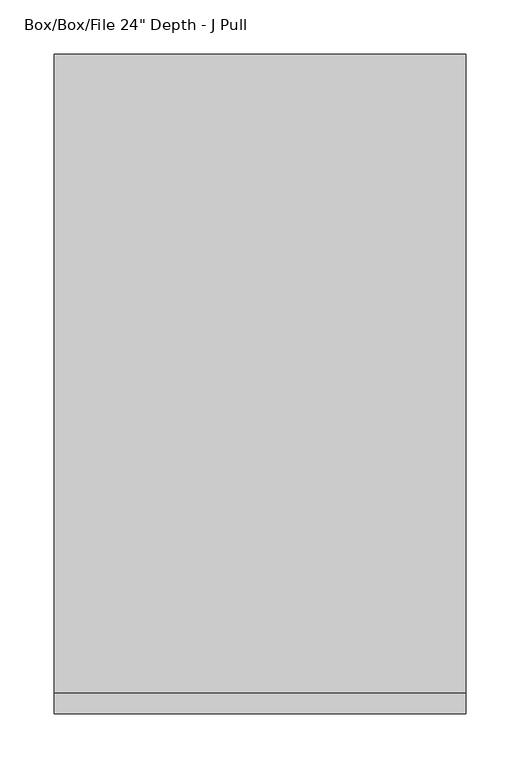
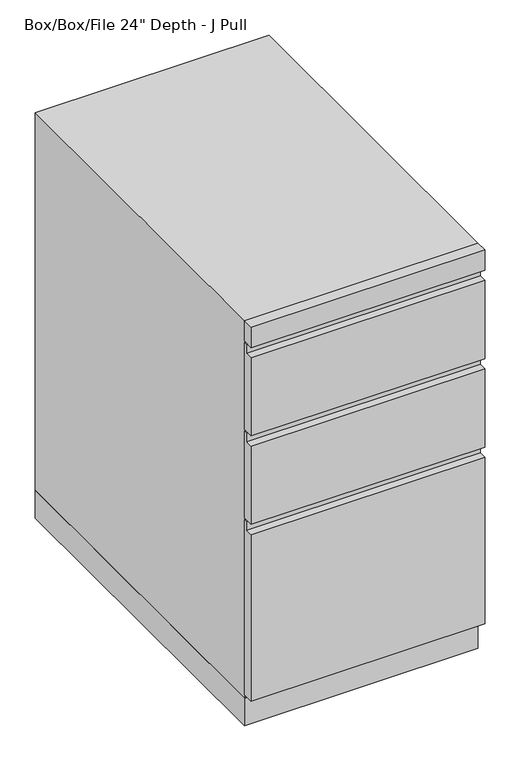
"""IFC4 building model written with IfcOpenShell, lengths in millimetres: furniture geometry."""

import ifcopenshell
import ifcopenshell.guid

model = None  # the IFC model being written
_history = None  # IfcOwnerHistory: only IFC2X3 demands one
_inside = {}  # id of a spatial element -> (the spatial element, [elements in it])
_under = {}  # id of a project, library or spatial element -> (it, [spatial elements below it])
_declared = {}  # id of a project -> (the project, [libraries it declares])
_typed = {}  # id of a type object -> (the type object, [elements of that type])
_made_of = {}  # id of a material, layer set ... -> (it, [elements and type objects made of it])


def new_model(schema):
    """Start an empty IFC model of exactly this schema.

    Asked for "IFC4X3", IfcOpenShell would pick the latest addendum, in which some entities
    have other attributes; the version numbers below select the first issue.
    IFC2X3 requires an IfcOwnerHistory on every rooted entity: one is made here for all.
    """
    global model, _history
    if schema == "IFC4X3":
        model = ifcopenshell.file(schema_version=(4, 3, 0, 0))
    else:
        model = ifcopenshell.file(schema=schema)
    _inside.clear()
    _under.clear()
    _declared.clear()
    _typed.clear()
    _made_of.clear()
    _history = None
    if model.schema == "IFC2X3":
        org = make("IfcOrganization", Name="unknown")
        user = make(
            "IfcPersonAndOrganization",
            ThePerson=make("IfcPerson", FamilyName="unknown"),
            TheOrganization=org,
        )
        app = make(
            "IfcApplication",
            ApplicationDeveloper=org,
            Version="unknown",
            ApplicationFullName="unknown",
            ApplicationIdentifier="unknown",
        )
        _history = make(
            "IfcOwnerHistory",
            OwningUser=user,
            OwningApplication=app,
            ChangeAction="ADDED",
            CreationDate=0,
        )
    return model


def make(cls, **values):
    """One entity of the class cls with the attributes given. An attribute that is None is left unset."""
    return model.create_entity(
        cls, **{name: value for name, value in values.items() if value is not None}
    )


def rooted(cls, **values):
    """An entity with a GlobalId (a new one), such as an element, a storey or a relation."""
    return make(cls, GlobalId=ifcopenshell.guid.new(), OwnerHistory=_history, **values)


def si_unit(unit_type, name, prefix=None):
    """IfcSIUnit, for example si_unit("LENGTHUNIT", "METRE", prefix="MILLI")."""
    return make("IfcSIUnit", UnitType=unit_type, Prefix=prefix, Name=name)


def assignment(units):
    """IfcUnitAssignment: the units of a project."""
    return None if units is None else make("IfcUnitAssignment", Units=units)


def point(xyz):
    """IfcCartesianPoint."""
    return None if xyz is None else make("IfcCartesianPoint", Coordinates=xyz)


def direction(xyz):
    """IfcDirection."""
    return None if xyz is None else make("IfcDirection", DirectionRatios=xyz)


def frame(location, z_axis=None, x_axis=None):
    """IfcAxis2Placement3D, a coordinate frame: its origin and axes. An axis left out is left unset."""
    return make(
        "IfcAxis2Placement3D",
        Location=point(location),
        Axis=direction(z_axis),
        RefDirection=direction(x_axis),
    )


def origin():
    """The frame at (0, 0, 0) with its axes left unset."""
    return frame((0.0, 0.0, 0.0))


def origin_with_axes():
    """The frame at (0, 0, 0) with the z axis (0, 0, 1) and the x axis (1, 0, 0) written out."""
    return frame((0.0, 0.0, 0.0), z_axis=(0.0, 0.0, 1.0), x_axis=(1.0, 0.0, 0.0))


def place(relative_to, where):
    """IfcLocalPlacement: puts the frame where relative to a parent placement (None: the world)."""
    return make(
        "IfcLocalPlacement", PlacementRelTo=relative_to, RelativePlacement=where
    )


def context(
    kind, dimensions, precision=None, world=None, true_north=None, identifier=None
):
    """IfcGeometricRepresentationContext, for example the 3D "Model" context."""
    return make(
        "IfcGeometricRepresentationContext",
        ContextIdentifier=identifier,
        ContextType=kind,
        CoordinateSpaceDimension=dimensions,
        Precision=precision,
        WorldCoordinateSystem=world,
        TrueNorth=true_north,
    )


def project(units=None, contexts=None):
    """IfcProject with its units and contexts."""
    return rooted(
        "IfcProject",
        Name="project",
        RepresentationContexts=contexts,
        UnitsInContext=assignment(units),
    )


def spatial(cls, under=None, at=None, **own):
    """A site, building, storey or space (cls), placed at a placement, below another one or the project."""
    s = rooted(cls, ObjectPlacement=at, **own)
    if under is not None:
        _under.setdefault(under.id(), (under, []))[1].append(s)
    return s


def polyline(points):
    """IfcPolyline through the points."""
    return make("IfcPolyline", Points=[point(p) for p in points])


def outline(outer, holes=None, kind="AREA"):
    """IfcArbitraryClosedProfileDef: a profile drawn as a closed curve; with holes, ...WithVoids."""
    if holes is None:
        return make("IfcArbitraryClosedProfileDef", ProfileType=kind, OuterCurve=outer)
    return make(
        "IfcArbitraryProfileDefWithVoids",
        ProfileType=kind,
        OuterCurve=outer,
        InnerCurves=holes,
    )


def extrude(swept, where, along, depth):
    """IfcExtrudedAreaSolid: the profile swept, set in the frame where, extruded along a direction by depth."""
    return make(
        "IfcExtrudedAreaSolid",
        SweptArea=swept,
        Position=where,
        ExtrudedDirection=direction(along),
        Depth=depth,
    )


def shape(context_of_items, identifier, shape_type, items):
    """IfcShapeRepresentation: the items that make up one representation, for example the "Body"."""
    return make(
        "IfcShapeRepresentation",
        ContextOfItems=context_of_items,
        RepresentationIdentifier=identifier,
        RepresentationType=shape_type,
        Items=items,
    )


def source(mapping_origin, context_of_items, identifier, shape_type, items):
    """IfcRepresentationMap: a shape defined once, which mapped items show again and again."""
    return make(
        "IfcRepresentationMap",
        MappingOrigin=mapping_origin,
        MappedRepresentation=shape(context_of_items, identifier, shape_type, items),
    )


def transform(
    local_origin,
    x_axis=None,
    y_axis=None,
    z_axis=None,
    scale=None,
    scale2=None,
    scale3=None,
    uniform=True,
):
    """IfcCartesianTransformationOperator3D, or its non-uniform kind. x_axis, y_axis, z_axis: its Axis1, 2, 3."""
    if uniform:
        return make(
            "IfcCartesianTransformationOperator3D",
            Axis1=direction(x_axis),
            Axis2=direction(y_axis),
            LocalOrigin=point(local_origin),
            Scale=scale,
            Axis3=direction(z_axis),
        )
    return make(
        "IfcCartesianTransformationOperator3DnonUniform",
        Axis1=direction(x_axis),
        Axis2=direction(y_axis),
        LocalOrigin=point(local_origin),
        Scale=scale,
        Axis3=direction(z_axis),
        Scale2=scale2,
        Scale3=scale3,
    )


def mapped(mapping_source, mapping_target):
    """IfcMappedItem: shows the shape of a source again, moved by a transform."""
    return make(
        "IfcMappedItem", MappingSource=mapping_source, MappingTarget=mapping_target
    )


def made_of(thing, what):
    """Note that an element or type object is made of a material, layer set ...; save() writes the relation."""
    if what is not None:
        _made_of.setdefault(what.id(), (what, []))[1].append(thing)
    return thing


def element(
    cls,
    number,
    at=None,
    inside=None,
    cuts=None,
    type_object=None,
    material=None,
    context=None,
    identifier="Body",
    shape_type=None,
    held_by="IfcProductDefinitionShape",
    body=None,
    shapes=None,
    **own,
):
    """One element of the class cls, such as IfcWall. Its Tag is "e" and its number.

    at: its placement. inside: the storey or other place that contains it. cuts: it is an
    opening in that element (IfcRelVoidsElement). A single representation is given by context,
    identifier, shape_type and body (its items); several are given by shapes. held_by: the class
    of the entity that holds the representations. save() writes the other relations.
    """
    e = rooted(cls, Tag="e%d" % number, ObjectPlacement=at, **own)
    if body is not None:
        shapes = [shape(context, identifier, shape_type, body)]
    if shapes is not None:
        e.Representation = make(held_by, Representations=shapes)
    if inside is not None:
        _inside.setdefault(inside.id(), (inside, []))[1].append(e)
    if cuts is not None:
        rooted(
            "IfcRelVoidsElement", RelatingBuildingElement=cuts, RelatedOpeningElement=e
        )
    if type_object is not None:
        _typed.setdefault(type_object.id(), (type_object, []))[1].append(e)
    return made_of(e, material)


def aggregate(whole, parts):
    """IfcRelAggregates: a whole, such as a stair, and the parts it consists of."""
    return rooted("IfcRelAggregates", RelatingObject=whole, RelatedObjects=parts)


def save(model, path):
    """Write the relations noted so far, then the file.

    IfcRelAggregates (storeys below a building ...), IfcRelContainedInSpatialStructure (elements
    in a storey), IfcRelDefinesByType, IfcRelAssociatesMaterial and IfcRelDeclares: one each for
    every whole, place, type object, material and project.
    """
    for whole, parts in _under.values():
        aggregate(whole, parts)
    for where, things in _inside.values():
        rooted(
            "IfcRelContainedInSpatialStructure",
            RelatedElements=things,
            RelatingStructure=where,
        )
    for kind, things in _typed.values():
        rooted("IfcRelDefinesByType", RelatedObjects=things, RelatingType=kind)
    for what, things in _made_of.values():
        rooted("IfcRelAssociatesMaterial", RelatedObjects=things, RelatingMaterial=what)
    for by, libraries in _declared.values():
        rooted("IfcRelDeclares", RelatingContext=by, RelatedDefinitions=libraries)
    model.write(path)


def furniture_39727c40(model_context):
    return source(origin(), model_context, "Body", "SweptSolid", [
        extrude(outline(polyline([(-590.55, 358.775), (-609.6, 358.775), (-609.6, 493.7125), (-596.9, 493.7125), (-596.9, 508.0), (-590.55, 508.0), (-590.55, 358.775)])), frame((-190.5, 0.0, 0.0), z_axis=(1.0, 0.0, 0.0), x_axis=(0.0, 1.0, 0.0)), (0.0, 0.0, 1.0), 381.0),
        extrude(outline(polyline([(-590.55, 511.175), (-609.6, 511.175), (-609.6, 646.1125), (-596.9, 646.1125), (-596.9, 660.4), (-590.55, 660.4), (-590.55, 511.175)])), frame((-190.5, 0.0, 0.0), z_axis=(1.0, 0.0, 0.0), x_axis=(0.0, 1.0, 0.0)), (0.0, 0.0, 1.0), 381.0),
        extrude(outline(polyline([(-590.55, 53.975), (-609.6, 53.975), (-609.6, 341.3125), (-596.9, 341.3125), (-596.9, 355.6), (-590.55, 355.6), (-590.55, 53.975)])), frame((-190.5, 0.0, 0.0), z_axis=(1.0, 0.0, 0.0), x_axis=(0.0, 1.0, 0.0)), (0.0, 0.0, 1.0), 381.0),
        extrude(outline(polyline([(190.5, 0.0), (190.5, -590.55), (-190.5, -590.55), (-190.5, 0.0), (190.5, 0.0)])), origin_with_axes(), (0.0, 0.0, 1.0), 47.625),
        extrude(outline(polyline([(190.5, -609.6), (-190.5, -609.6), (-190.5, -590.55), (190.5, -590.55), (190.5, -609.6)])), frame((0.0, 0.0, 663.575), z_axis=(0.0, 0.0, 1.0), x_axis=(1.0, 0.0, 0.0)), (0.0, 0.0, 1.0), 34.925),
        extrude(outline(polyline([(190.5, 0.0), (190.5, -590.55), (-190.5, -590.55), (-190.5, 0.0), (190.5, 0.0)])), frame((0.0, 0.0, 47.625), z_axis=(0.0, 0.0, 1.0), x_axis=(1.0, 0.0, 0.0)), (0.0, 0.0, 1.0), 650.875),
    ])


if __name__ == "__main__":
    model = new_model("IFC4")
    model_context = context("Model", 3, world=origin())
    ifc_project = project(units=[si_unit("LENGTHUNIT", "METRE", prefix="MILLI")], contexts=[model_context])
    site = spatial("IfcSite", under=ifc_project)
    building = spatial("IfcBuilding", under=site)
    placement = place(None, origin())
    furniture_shape = furniture_39727c40(model_context)
    element("IfcFurniture", 1, ObjectType="Haworth_XSeries-Mobile_Pedestal : Box/Box/File 24\" Depth - J Pull", at=placement, inside=building, context=model_context, shape_type="MappedRepresentation", body=[
        mapped(furniture_shape, transform((0.0, 0.0, 0.0), x_axis=(1.0, 0.0, 0.0), y_axis=(0.0, 1.0, 0.0), z_axis=(0.0, 0.0, 1.0))),
    ])
    save(model, "model.ifc")
